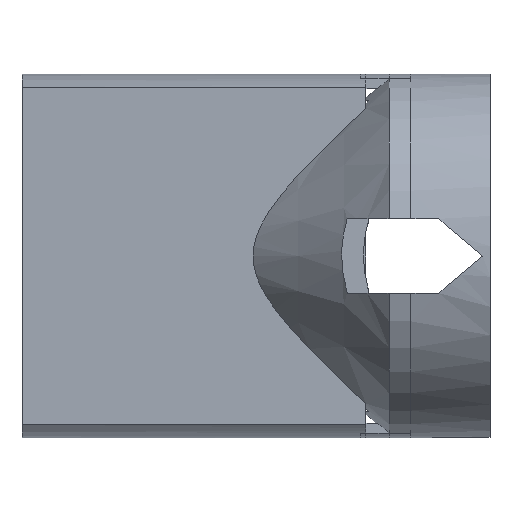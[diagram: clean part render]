
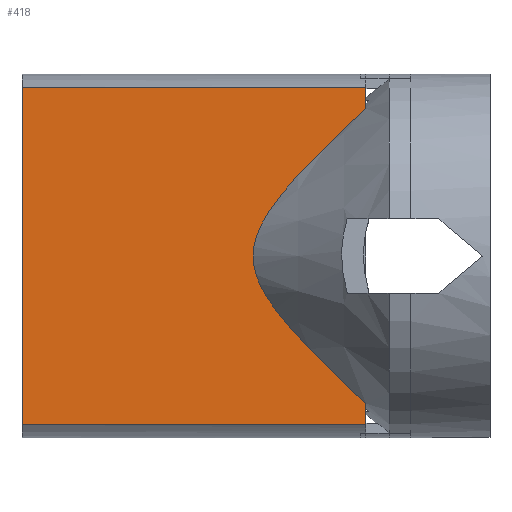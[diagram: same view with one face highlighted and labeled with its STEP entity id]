
A CAD part, front view. The second image highlights one B-rep face of the part: STEP entity #418.
In plain terms, the highlighted planar face has unit normal (0, -1, 0).
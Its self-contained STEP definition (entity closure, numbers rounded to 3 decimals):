
#21 = EDGE_CURVE('',#22,#24,#26,.T.);
#22 = VERTEX_POINT('',#23);
#23 = CARTESIAN_POINT('',(26.84,-6.2,-15.453));
#24 = VERTEX_POINT('',#25);
#25 = CARTESIAN_POINT('',(26.84,-6.2,15.453));
#26 = SURFACE_CURVE('',#27,(#31,#43),.PCURVE_S1.);
#27 = LINE('',#28,#29);
#28 = CARTESIAN_POINT('',(26.84,-6.2,-16.65));
#29 = VECTOR('',#30,1.);
#30 = DIRECTION('',(0.,0.,1.));
#31 = PCURVE('',#32,#37);
#32 = PLANE('',#33);
#33 = AXIS2_PLACEMENT_3D('',#34,#35,#36);
#34 = CARTESIAN_POINT('',(26.84,-6.2,-16.65));
#35 = DIRECTION('',(1.,0.,-0.));
#36 = DIRECTION('',(0.,0.,1.));
#37 = DEFINITIONAL_REPRESENTATION('',(#38),#42);
#38 = LINE('',#39,#40);
#39 = CARTESIAN_POINT('',(0.,0.));
#40 = VECTOR('',#41,1.);
#41 = DIRECTION('',(1.,0.));
#42 = ( GEOMETRIC_REPRESENTATION_CONTEXT(2) 
PARAMETRIC_REPRESENTATION_CONTEXT() REPRESENTATION_CONTEXT('2D SPACE',''
  ) );
#43 = PCURVE('',#44,#49);
#44 = PLANE('',#45);
#45 = AXIS2_PLACEMENT_3D('',#46,#47,#48);
#46 = CARTESIAN_POINT('',(26.84,-6.2,-16.65));
#47 = DIRECTION('',(-0.,1.,0.));
#48 = DIRECTION('',(0.,0.,1.));
#49 = DEFINITIONAL_REPRESENTATION('',(#50),#54);
#50 = LINE('',#51,#52);
#51 = CARTESIAN_POINT('',(0.,0.));
#52 = VECTOR('',#53,1.);
#53 = DIRECTION('',(1.,0.));
#54 = ( GEOMETRIC_REPRESENTATION_CONTEXT(2) 
PARAMETRIC_REPRESENTATION_CONTEXT() REPRESENTATION_CONTEXT('2D SPACE',''
  ) );
#73 = CYLINDRICAL_SURFACE('',#74,16.65);
#74 = AXIS2_PLACEMENT_3D('',#75,#76,#77);
#75 = CARTESIAN_POINT('',(25.84,0.,0.));
#76 = DIRECTION('',(1.,0.,0.));
#77 = DIRECTION('',(-0.,0.,1.));
#186 = CYLINDRICAL_SURFACE('',#187,16.65);
#187 = AXIS2_PLACEMENT_3D('',#188,#189,#190);
#188 = CARTESIAN_POINT('',(25.84,0.,0.));
#189 = DIRECTION('',(1.,0.,0.));
#190 = DIRECTION('',(-0.,0.,1.));
#418 = ADVANCED_FACE('',(#419),#44,.F.);
#419 = FACE_BOUND('',#420,.F.);
#420 = EDGE_LOOP('',(#421,#451,#470,#471,#492,#520,#560));
#421 = ORIENTED_EDGE('',*,*,#422,.F.);
#422 = EDGE_CURVE('',#423,#425,#427,.T.);
#423 = VERTEX_POINT('',#424);
#424 = CARTESIAN_POINT('',(58.34,-6.2,-15.453));
#425 = VERTEX_POINT('',#426);
#426 = CARTESIAN_POINT('',(58.34,-6.2,-13.523));
#427 = SURFACE_CURVE('',#428,(#432,#439),.PCURVE_S1.);
#428 = LINE('',#429,#430);
#429 = CARTESIAN_POINT('',(58.34,-6.2,-16.65));
#430 = VECTOR('',#431,1.);
#431 = DIRECTION('',(0.,0.,1.));
#432 = PCURVE('',#44,#433);
#433 = DEFINITIONAL_REPRESENTATION('',(#434),#438);
#434 = LINE('',#435,#436);
#435 = CARTESIAN_POINT('',(0.,31.5));
#436 = VECTOR('',#437,1.);
#437 = DIRECTION('',(1.,0.));
#438 = ( GEOMETRIC_REPRESENTATION_CONTEXT(2) 
PARAMETRIC_REPRESENTATION_CONTEXT() REPRESENTATION_CONTEXT('2D SPACE',''
  ) );
#439 = PCURVE('',#440,#445);
#440 = PLANE('',#441);
#441 = AXIS2_PLACEMENT_3D('',#442,#443,#444);
#442 = CARTESIAN_POINT('',(58.34,-6.2,-16.65));
#443 = DIRECTION('',(1.,0.,-0.));
#444 = DIRECTION('',(0.,0.,1.));
#445 = DEFINITIONAL_REPRESENTATION('',(#446),#450);
#446 = LINE('',#447,#448);
#447 = CARTESIAN_POINT('',(0.,0.));
#448 = VECTOR('',#449,1.);
#449 = DIRECTION('',(1.,0.));
#450 = ( GEOMETRIC_REPRESENTATION_CONTEXT(2) 
PARAMETRIC_REPRESENTATION_CONTEXT() REPRESENTATION_CONTEXT('2D SPACE',''
  ) );
#451 = ORIENTED_EDGE('',*,*,#452,.F.);
#452 = EDGE_CURVE('',#22,#423,#453,.T.);
#453 = SURFACE_CURVE('',#454,(#458,#464),.PCURVE_S1.);
#454 = LINE('',#455,#456);
#455 = CARTESIAN_POINT('',(25.84,-6.2,-15.453));
#456 = VECTOR('',#457,1.);
#457 = DIRECTION('',(1.,0.,0.));
#458 = PCURVE('',#44,#459);
#459 = DEFINITIONAL_REPRESENTATION('',(#460),#463);
#460 = B_SPLINE_CURVE_WITH_KNOTS('',1,(#461,#462),.UNSPECIFIED.,.F.,.F.,
  (2,2),(0.,35.65),.PIECEWISE_BEZIER_KNOTS.);
#461 = CARTESIAN_POINT('',(1.197,-1.));
#462 = CARTESIAN_POINT('',(1.197,34.65));
#463 = ( GEOMETRIC_REPRESENTATION_CONTEXT(2) 
PARAMETRIC_REPRESENTATION_CONTEXT() REPRESENTATION_CONTEXT('2D SPACE',''
  ) );
#464 = PCURVE('',#73,#465);
#465 = DEFINITIONAL_REPRESENTATION('',(#466),#469);
#466 = B_SPLINE_CURVE_WITH_KNOTS('',1,(#467,#468),.UNSPECIFIED.,.F.,.F.,
  (2,2),(0.,35.65),.PIECEWISE_BEZIER_KNOTS.);
#467 = CARTESIAN_POINT('',(2.76,0.));
#468 = CARTESIAN_POINT('',(2.76,35.65));
#469 = ( GEOMETRIC_REPRESENTATION_CONTEXT(2) 
PARAMETRIC_REPRESENTATION_CONTEXT() REPRESENTATION_CONTEXT('2D SPACE',''
  ) );
#470 = ORIENTED_EDGE('',*,*,#21,.T.);
#471 = ORIENTED_EDGE('',*,*,#472,.T.);
#472 = EDGE_CURVE('',#24,#473,#475,.T.);
#473 = VERTEX_POINT('',#474);
#474 = CARTESIAN_POINT('',(58.34,-6.2,15.453));
#475 = SURFACE_CURVE('',#476,(#480,#486),.PCURVE_S1.);
#476 = LINE('',#477,#478);
#477 = CARTESIAN_POINT('',(25.84,-6.2,15.453));
#478 = VECTOR('',#479,1.);
#479 = DIRECTION('',(1.,0.,0.));
#480 = PCURVE('',#44,#481);
#481 = DEFINITIONAL_REPRESENTATION('',(#482),#485);
#482 = B_SPLINE_CURVE_WITH_KNOTS('',1,(#483,#484),.UNSPECIFIED.,.F.,.F.,
  (2,2),(0.,35.65),.PIECEWISE_BEZIER_KNOTS.);
#483 = CARTESIAN_POINT('',(32.103,-1.));
#484 = CARTESIAN_POINT('',(32.103,34.65));
#485 = ( GEOMETRIC_REPRESENTATION_CONTEXT(2) 
PARAMETRIC_REPRESENTATION_CONTEXT() REPRESENTATION_CONTEXT('2D SPACE',''
  ) );
#486 = PCURVE('',#186,#487);
#487 = DEFINITIONAL_REPRESENTATION('',(#488),#491);
#488 = B_SPLINE_CURVE_WITH_KNOTS('',1,(#489,#490),.UNSPECIFIED.,.F.,.F.,
  (2,2),(0.,35.65),.PIECEWISE_BEZIER_KNOTS.);
#489 = CARTESIAN_POINT('',(0.382,0.));
#490 = CARTESIAN_POINT('',(0.382,35.65));
#491 = ( GEOMETRIC_REPRESENTATION_CONTEXT(2) 
PARAMETRIC_REPRESENTATION_CONTEXT() REPRESENTATION_CONTEXT('2D SPACE',''
  ) );
#492 = ORIENTED_EDGE('',*,*,#493,.F.);
#493 = EDGE_CURVE('',#494,#473,#496,.T.);
#494 = VERTEX_POINT('',#495);
#495 = CARTESIAN_POINT('',(58.34,-6.2,13.523));
#496 = SURFACE_CURVE('',#497,(#501,#508),.PCURVE_S1.);
#497 = LINE('',#498,#499);
#498 = CARTESIAN_POINT('',(58.34,-6.2,-16.65));
#499 = VECTOR('',#500,1.);
#500 = DIRECTION('',(0.,0.,1.));
#501 = PCURVE('',#44,#502);
#502 = DEFINITIONAL_REPRESENTATION('',(#503),#507);
#503 = LINE('',#504,#505);
#504 = CARTESIAN_POINT('',(0.,31.5));
#505 = VECTOR('',#506,1.);
#506 = DIRECTION('',(1.,0.));
#507 = ( GEOMETRIC_REPRESENTATION_CONTEXT(2) 
PARAMETRIC_REPRESENTATION_CONTEXT() REPRESENTATION_CONTEXT('2D SPACE',''
  ) );
#508 = PCURVE('',#509,#514);
#509 = PLANE('',#510);
#510 = AXIS2_PLACEMENT_3D('',#511,#512,#513);
#511 = CARTESIAN_POINT('',(58.34,-6.2,-16.65));
#512 = DIRECTION('',(1.,0.,-0.));
#513 = DIRECTION('',(0.,0.,1.));
#514 = DEFINITIONAL_REPRESENTATION('',(#515),#519);
#515 = LINE('',#516,#517);
#516 = CARTESIAN_POINT('',(0.,0.));
#517 = VECTOR('',#518,1.);
#518 = DIRECTION('',(1.,0.));
#519 = ( GEOMETRIC_REPRESENTATION_CONTEXT(2) 
PARAMETRIC_REPRESENTATION_CONTEXT() REPRESENTATION_CONTEXT('2D SPACE',''
  ) );
#520 = ORIENTED_EDGE('',*,*,#521,.T.);
#521 = EDGE_CURVE('',#494,#522,#524,.T.);
#522 = VERTEX_POINT('',#523);
#523 = CARTESIAN_POINT('',(48.,-6.2,0.));
#524 = SURFACE_CURVE('',#525,(#530,#537),.PCURVE_S1.);
#525 = HYPERBOLA('',#526,7.389,6.2);
#526 = AXIS2_PLACEMENT_3D('',#527,#528,#529);
#527 = CARTESIAN_POINT('',(40.611,-6.2,0.));
#528 = DIRECTION('',(-0.,1.,0.));
#529 = DIRECTION('',(1.,0.,0.));
#530 = PCURVE('',#44,#531);
#531 = DEFINITIONAL_REPRESENTATION('',(#532),#536);
#532 = ( BOUNDED_CURVE() B_SPLINE_CURVE(2,(#533,#534,#535),
.UNSPECIFIED.,.F.,.F.) B_SPLINE_CURVE_WITH_KNOTS((3,3),(-1.644,
0.),.PIECEWISE_BEZIER_KNOTS.) CURVE() 
GEOMETRIC_REPRESENTATION_ITEM() RATIONAL_B_SPLINE_CURVE((1.,
1.357,1.)) REPRESENTATION_ITEM('') );
#533 = CARTESIAN_POINT('',(32.103,33.614));
#534 = CARTESIAN_POINT('',(20.843,21.16));
#535 = CARTESIAN_POINT('',(16.65,21.16));
#536 = ( GEOMETRIC_REPRESENTATION_CONTEXT(2) 
PARAMETRIC_REPRESENTATION_CONTEXT() REPRESENTATION_CONTEXT('2D SPACE',''
  ) );
#537 = PCURVE('',#538,#543);
#538 = CONICAL_SURFACE('',#539,6.2,0.698);
#539 = AXIS2_PLACEMENT_3D('',#540,#541,#542);
#540 = CARTESIAN_POINT('',(48.,0.,0.));
#541 = DIRECTION('',(1.,0.,0.));
#542 = DIRECTION('',(-0.,1.,0.));
#543 = DEFINITIONAL_REPRESENTATION('',(#544),#559);
#544 = B_SPLINE_CURVE_WITH_KNOTS('',7,(#545,#546,#547,#548,#549,#550,
    #551,#552,#553,#554,#555,#556,#557,#558),.UNSPECIFIED.,.F.,.F.,(8,6,
    8),(-1.644,-0.822,0.),
  .UNSPECIFIED.);
#545 = CARTESIAN_POINT('',(1.952,12.454));
#546 = CARTESIAN_POINT('',(1.996,10.291));
#547 = CARTESIAN_POINT('',(2.045,8.447));
#548 = CARTESIAN_POINT('',(2.101,6.874));
#549 = CARTESIAN_POINT('',(2.164,5.534));
#550 = CARTESIAN_POINT('',(2.234,4.396));
#551 = CARTESIAN_POINT('',(2.312,3.438));
#552 = CARTESIAN_POINT('',(2.485,1.845));
#553 = CARTESIAN_POINT('',(2.58,1.209));
#554 = CARTESIAN_POINT('',(2.682,0.718));
#555 = CARTESIAN_POINT('',(2.792,0.357));
#556 = CARTESIAN_POINT('',(2.907,0.119));
#557 = CARTESIAN_POINT('',(3.024,0.));
#558 = CARTESIAN_POINT('',(3.142,0.));
#559 = ( GEOMETRIC_REPRESENTATION_CONTEXT(2) 
PARAMETRIC_REPRESENTATION_CONTEXT() REPRESENTATION_CONTEXT('2D SPACE',''
  ) );
#560 = ORIENTED_EDGE('',*,*,#561,.T.);
#561 = EDGE_CURVE('',#522,#425,#562,.T.);
#562 = SURFACE_CURVE('',#563,(#568,#575),.PCURVE_S1.);
#563 = HYPERBOLA('',#564,7.389,6.2);
#564 = AXIS2_PLACEMENT_3D('',#565,#566,#567);
#565 = CARTESIAN_POINT('',(40.611,-6.2,0.));
#566 = DIRECTION('',(-0.,1.,0.));
#567 = DIRECTION('',(1.,0.,0.));
#568 = PCURVE('',#44,#569);
#569 = DEFINITIONAL_REPRESENTATION('',(#570),#574);
#570 = ( BOUNDED_CURVE() B_SPLINE_CURVE(2,(#571,#572,#573),
.UNSPECIFIED.,.F.,.F.) B_SPLINE_CURVE_WITH_KNOTS((3,3),(
0.,1.644),.PIECEWISE_BEZIER_KNOTS.) CURVE() 
GEOMETRIC_REPRESENTATION_ITEM() RATIONAL_B_SPLINE_CURVE((1.,
1.357,1.)) REPRESENTATION_ITEM('') );
#571 = CARTESIAN_POINT('',(16.65,21.16));
#572 = CARTESIAN_POINT('',(12.457,21.16));
#573 = CARTESIAN_POINT('',(1.197,33.614));
#574 = ( GEOMETRIC_REPRESENTATION_CONTEXT(2) 
PARAMETRIC_REPRESENTATION_CONTEXT() REPRESENTATION_CONTEXT('2D SPACE',''
  ) );
#575 = PCURVE('',#538,#576);
#576 = DEFINITIONAL_REPRESENTATION('',(#577),#592);
#577 = B_SPLINE_CURVE_WITH_KNOTS('',7,(#578,#579,#580,#581,#582,#583,
    #584,#585,#586,#587,#588,#589,#590,#591),.UNSPECIFIED.,.F.,.F.,(8,6,
    8),(0.,0.822,1.644),
  .UNSPECIFIED.);
#578 = CARTESIAN_POINT('',(3.142,0.));
#579 = CARTESIAN_POINT('',(3.259,0.));
#580 = CARTESIAN_POINT('',(3.377,0.119));
#581 = CARTESIAN_POINT('',(3.491,0.357));
#582 = CARTESIAN_POINT('',(3.601,0.718));
#583 = CARTESIAN_POINT('',(3.703,1.209));
#584 = CARTESIAN_POINT('',(3.798,1.845));
#585 = CARTESIAN_POINT('',(3.971,3.438));
#586 = CARTESIAN_POINT('',(4.049,4.396));
#587 = CARTESIAN_POINT('',(4.12,5.534));
#588 = CARTESIAN_POINT('',(4.182,6.874));
#589 = CARTESIAN_POINT('',(4.238,8.447));
#590 = CARTESIAN_POINT('',(4.287,10.291));
#591 = CARTESIAN_POINT('',(4.331,12.454));
#592 = ( GEOMETRIC_REPRESENTATION_CONTEXT(2) 
PARAMETRIC_REPRESENTATION_CONTEXT() REPRESENTATION_CONTEXT('2D SPACE',''
  ) );
